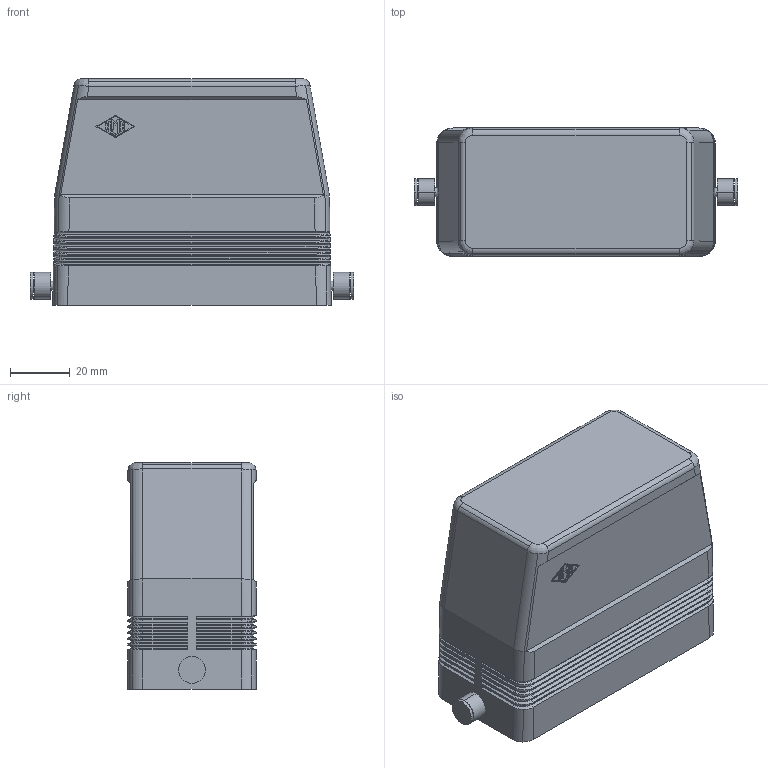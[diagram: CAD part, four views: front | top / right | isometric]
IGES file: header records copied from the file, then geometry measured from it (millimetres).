
Global section: file name: No Iges File Name specified; native system: AutoDesk Inventor R6.1; preprocessor: AutoDesk Inventor Iges Exporter R6.1; author: No Author specified; organization: No Organization specified; date: 20070102.164129; units: millimetre
Bounding box: 108.5 x 43 x 76 mm (x, y, z)
Volume: 68053.8 mm3; surface area: 46567.4 mm2
Topology: 1 solids, 1 shells, 454 faces, 1139 edges, 698 vertices
Faces by surface type: plane 155, bspline 137, cylinder 114, revolution 24, cone 24
